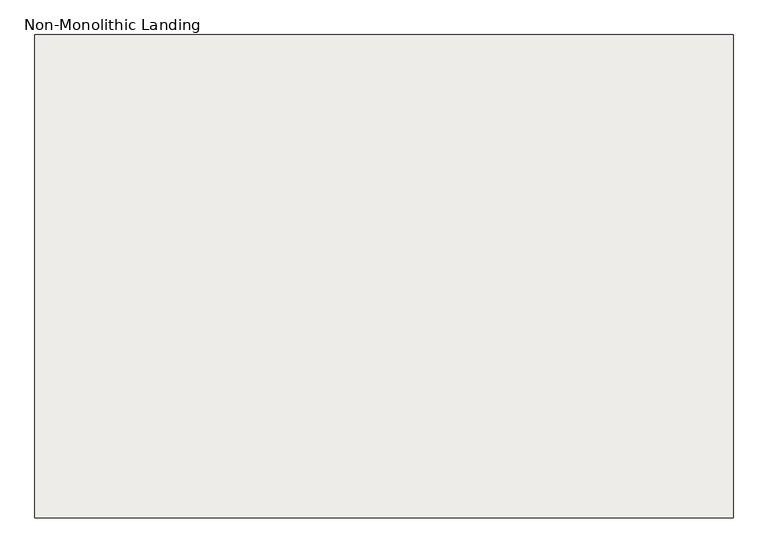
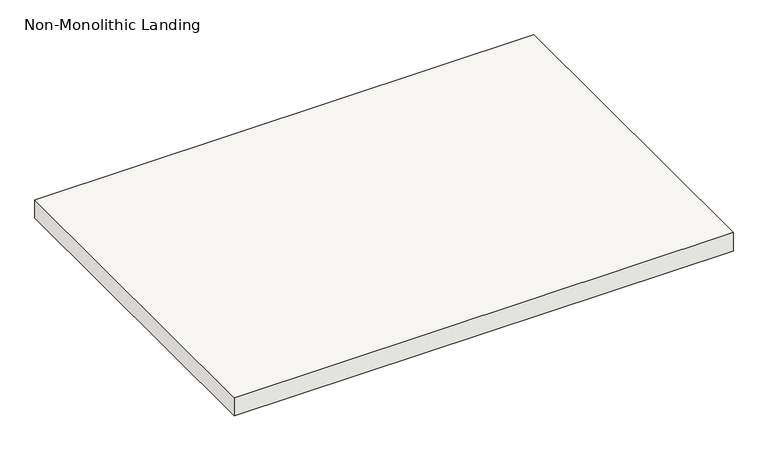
"""IFC4 building model written with IfcOpenShell, lengths in millimetres: slab geometry, Non-Monolithic Landing."""

from ifc_helpers import new_model, si_unit, frame, origin, place, context, project, spatial, polyline, outline, extrude, source, transform, mapped, element, save


def non_monolithic_landing_55aafcfe(model_context):
    return source(origin(), model_context, "Body", "SweptSolid", [
        extrude(outline(polyline([(138305.2882982, 34841.5265585), (139626.0882982, 34841.5265585), (139626.0882982, 33927.1265585), (138305.2882982, 33927.1265585), (138305.2882982, 34841.5265585)])), frame((0.0, 0.0, 2126.3428571), z_axis=(0.0, 0.0, 1.0), x_axis=(1.0, 0.0, 0.0)), (0.0, 0.0, 1.0), 50.8),
    ])


if __name__ == "__main__":
    model = new_model("IFC4")
    model_context = context("Model", 3, world=origin())
    ifc_project = project(units=[si_unit("LENGTHUNIT", "METRE", prefix="MILLI")], contexts=[model_context])
    site = spatial("IfcSite", under=ifc_project)
    building = spatial("IfcBuilding", under=site)
    placement = place(None, origin())
    non_monolithic_landing_shape = non_monolithic_landing_55aafcfe(model_context)
    element("IfcSlab", 1, ObjectType="Non-Monolithic Landing", at=placement, inside=building, context=model_context, shape_type="MappedRepresentation", body=[
        mapped(non_monolithic_landing_shape, transform((0.0, 0.0, 0.0), x_axis=(1.0, 0.0, 0.0), y_axis=(0.0, 1.0, 0.0), z_axis=(0.0, 0.0, 1.0))),
    ])
    save(model, "model.ifc")
